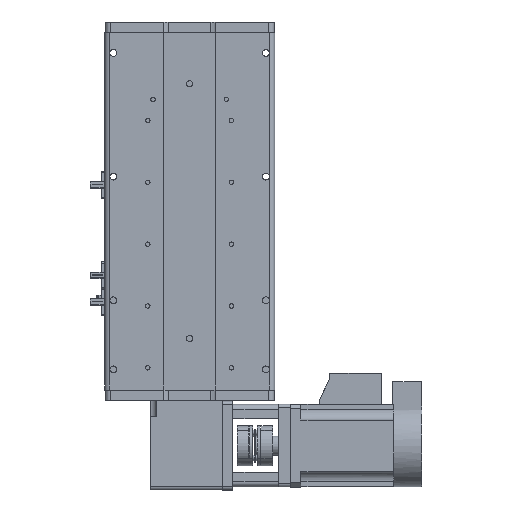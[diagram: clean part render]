
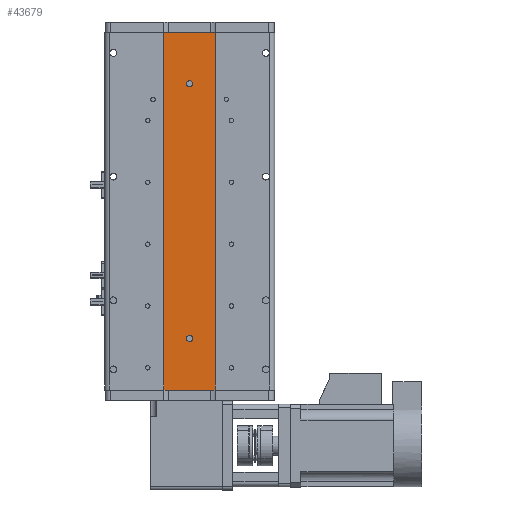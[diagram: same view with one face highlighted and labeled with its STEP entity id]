
A CAD part, front view. The second image highlights one B-rep face of the part: STEP entity #43679.
In plain terms, the highlighted planar face has unit normal (0, -1, 0).
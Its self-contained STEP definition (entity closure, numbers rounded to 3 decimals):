
#1326 = CARTESIAN_POINT ( 'NONE',  ( 25., 1., 173.5 ) ) ;
#1488 = VERTEX_POINT ( 'NONE', #13879 ) ;
#1673 = CARTESIAN_POINT ( 'NONE',  ( -25., 1., -173.5 ) ) ;
#2062 = CARTESIAN_POINT ( 'NONE',  ( 25., 1., 173.5 ) ) ;
#2375 = CARTESIAN_POINT ( 'NONE',  ( -25., 1., 173.5 ) ) ;
#3488 = AXIS2_PLACEMENT_3D ( 'NONE', #31436, #17956, #41662 ) ;
#3667 = VERTEX_POINT ( 'NONE', #32739 ) ;
#4007 = EDGE_CURVE ( 'NONE', #24661, #1488, #38213, .T. ) ;
#5255 = VERTEX_POINT ( 'NONE', #1673 ) ;
#6270 = ORIENTED_EDGE ( 'NONE', *, *, #35043, .T. ) ;
#6279 = ORIENTED_EDGE ( 'NONE', *, *, #28911, .F. ) ;
#6660 = CARTESIAN_POINT ( 'NONE',  ( 0., 1., -123.5 ) ) ;
#6993 = FACE_BOUND ( 'NONE', #8036, .T. ) ;
#7579 = CIRCLE ( 'NONE', #37281, 3. ) ;
#7715 = PLANE ( 'NONE',  #3488 ) ;
#7983 = VECTOR ( 'NONE', #27604, 1000. ) ;
#8036 = EDGE_LOOP ( 'NONE', ( #20619, #26046 ) ) ;
#8477 = AXIS2_PLACEMENT_3D ( 'NONE', #12158, #35875, #15576 ) ;
#10108 = DIRECTION ( 'NONE',  ( 0., 0., 1. ) ) ;
#10706 = CARTESIAN_POINT ( 'NONE',  ( 25., 1., -173.5 ) ) ;
#10895 = EDGE_LOOP ( 'NONE', ( #12278, #30430 ) ) ;
#11058 = CIRCLE ( 'NONE', #35626, 3. ) ;
#11205 = DIRECTION ( 'NONE',  ( 0., 1., 0. ) ) ;
#12158 = CARTESIAN_POINT ( 'NONE',  ( 0., 1., 123.5 ) ) ;
#12278 = ORIENTED_EDGE ( 'NONE', *, *, #13152, .T. ) ;
#12640 = EDGE_LOOP ( 'NONE', ( #31069, #6279, #29130, #6270 ) ) ;
#12676 = LINE ( 'NONE', #2375, #38640 ) ;
#13152 = EDGE_CURVE ( 'NONE', #35796, #25969, #11058, .T. ) ;
#13879 = CARTESIAN_POINT ( 'NONE',  ( 0., 1., 126.5 ) ) ;
#14714 = CARTESIAN_POINT ( 'NONE',  ( 0., 1., -123.5 ) ) ;
#14887 = LINE ( 'NONE', #1326, #22836 ) ;
#15239 = EDGE_CURVE ( 'NONE', #1488, #24661, #35740, .T. ) ;
#15576 = DIRECTION ( 'NONE',  ( 0., 0., 1. ) ) ;
#15700 = DIRECTION ( 'NONE',  ( 0., 0., -1. ) ) ;
#16043 = DIRECTION ( 'NONE',  ( 0., 0., -1. ) ) ;
#16567 = EDGE_CURVE ( 'NONE', #5255, #26537, #35037, .T. ) ;
#17956 = DIRECTION ( 'NONE',  ( 0., 1., 0. ) ) ;
#18122 = DIRECTION ( 'NONE',  ( 0., 0., 1. ) ) ;
#20619 = ORIENTED_EDGE ( 'NONE', *, *, #4007, .T. ) ;
#22516 = AXIS2_PLACEMENT_3D ( 'NONE', #31505, #11205, #34923 ) ;
#22836 = VECTOR ( 'NONE', #32015, 1000. ) ;
#24661 = VERTEX_POINT ( 'NONE', #37839 ) ;
#25045 = FACE_BOUND ( 'NONE', #10895, .T. ) ;
#25459 = VERTEX_POINT ( 'NONE', #42650 ) ;
#25969 = VERTEX_POINT ( 'NONE', #31967 ) ;
#26046 = ORIENTED_EDGE ( 'NONE', *, *, #15239, .T. ) ;
#26520 = EDGE_CURVE ( 'NONE', #25969, #35796, #7579, .T. ) ;
#26537 = VERTEX_POINT ( 'NONE', #35021 ) ;
#27604 = DIRECTION ( 'NONE',  ( 1., 0., 0. ) ) ;
#28911 = EDGE_CURVE ( 'NONE', #25459, #26537, #36183, .T. ) ;
#29130 = ORIENTED_EDGE ( 'NONE', *, *, #38059, .F. ) ;
#30381 = DIRECTION ( 'NONE',  ( 0., 1., 0. ) ) ;
#30430 = ORIENTED_EDGE ( 'NONE', *, *, #26520, .T. ) ;
#31069 = ORIENTED_EDGE ( 'NONE', *, *, #16567, .T. ) ;
#31436 = CARTESIAN_POINT ( 'NONE',  ( 25., 1., 173.5 ) ) ;
#31505 = CARTESIAN_POINT ( 'NONE',  ( 0., 1., 123.5 ) ) ;
#31967 = CARTESIAN_POINT ( 'NONE',  ( 0., 1., -120.5 ) ) ;
#32015 = DIRECTION ( 'NONE',  ( 1., 0., 0. ) ) ;
#32739 = CARTESIAN_POINT ( 'NONE',  ( -25., 1., 173.5 ) ) ;
#34061 = FACE_OUTER_BOUND ( 'NONE', #12640, .T. ) ;
#34923 = DIRECTION ( 'NONE',  ( 0., 0., 1. ) ) ;
#35021 = CARTESIAN_POINT ( 'NONE',  ( 25., 1., -173.5 ) ) ;
#35037 = LINE ( 'NONE', #10706, #7983 ) ;
#35043 = EDGE_CURVE ( 'NONE', #3667, #5255, #12676, .T. ) ;
#35626 = AXIS2_PLACEMENT_3D ( 'NONE', #6660, #30381, #10108 ) ;
#35740 = CIRCLE ( 'NONE', #8477, 3. ) ;
#35796 = VERTEX_POINT ( 'NONE', #43499 ) ;
#35875 = DIRECTION ( 'NONE',  ( 0., 1., 0. ) ) ;
#36183 = LINE ( 'NONE', #2062, #43052 ) ;
#37281 = AXIS2_PLACEMENT_3D ( 'NONE', #14714, #38405, #18122 ) ;
#37839 = CARTESIAN_POINT ( 'NONE',  ( 0., 1., 120.5 ) ) ;
#38059 = EDGE_CURVE ( 'NONE', #3667, #25459, #14887, .T. ) ;
#38213 = CIRCLE ( 'NONE', #22516, 3. ) ;
#38405 = DIRECTION ( 'NONE',  ( 0., 1., 0. ) ) ;
#38640 = VECTOR ( 'NONE', #16043, 1000. ) ;
#41662 = DIRECTION ( 'NONE',  ( 0., 0., 1. ) ) ;
#42650 = CARTESIAN_POINT ( 'NONE',  ( 25., 1., 173.5 ) ) ;
#43052 = VECTOR ( 'NONE', #15700, 1000. ) ;
#43499 = CARTESIAN_POINT ( 'NONE',  ( 0., 1., -126.5 ) ) ;
#43679 = ADVANCED_FACE ( 'NONE', ( #25045, #6993, #34061 ), #7715, .F. ) ;
